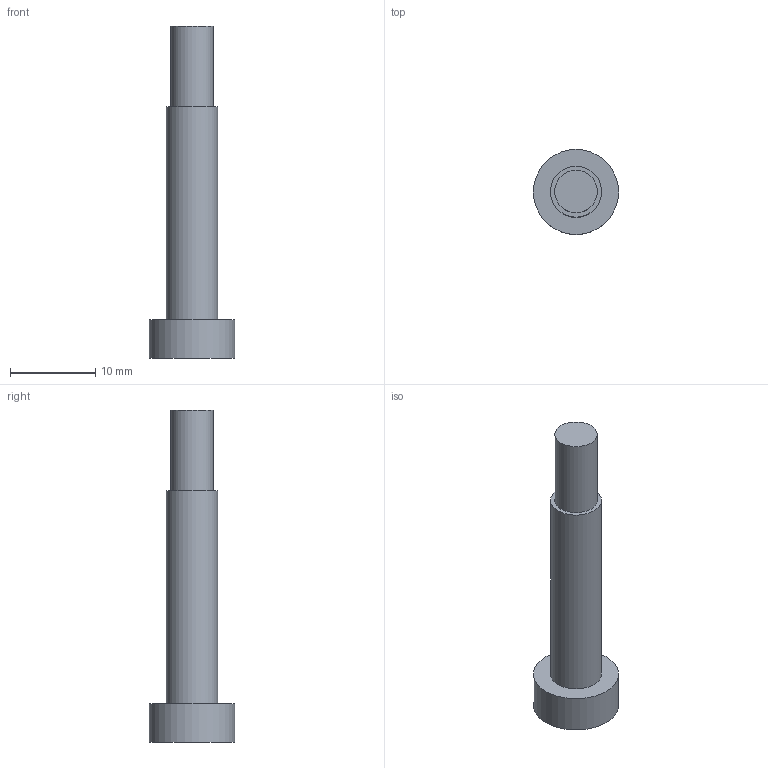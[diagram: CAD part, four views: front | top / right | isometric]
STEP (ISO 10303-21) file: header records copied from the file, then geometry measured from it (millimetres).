
FILE_DESCRIPTION(('Open CASCADE Model'),'2;1');
FILE_NAME('Open CASCADE Shape Model','2026-11-14T12:26:43',('Author'),( 'Open CASCADE'),'Open CASCADE STEP processor 8.0','Open CASCADE 8.0' ,'Unknown');
FILE_SCHEMA(('AUTOMOTIVE_DESIGN { 1 0 10303 214 1 1 1 1 }'));
Length unit declared in the file: millimetre
Products named in the file (1): Open CASCADE STEP translator 8.0 4
Bounding box: 10 x 10 x 39 mm (x, y, z)
Volume: 1224 mm3; surface area: 949.3 mm2
Topology: 1 solids, 1 shells, 14 faces, 27 edges, 18 vertices
Faces by surface type: plane 11, cylinder 3
Full cylindrical faces by diameter (mm): 5 x1, 6 x1, 10 x1
Entity records: 718 total; most frequent: DIRECTION 117, CARTESIAN_POINT 114, LINE 69, VECTOR 69, ORIENTED_EDGE 54, PCURVE 54, DEFINITIONAL_REPRESENTATION 54, EDGE_CURVE 27
